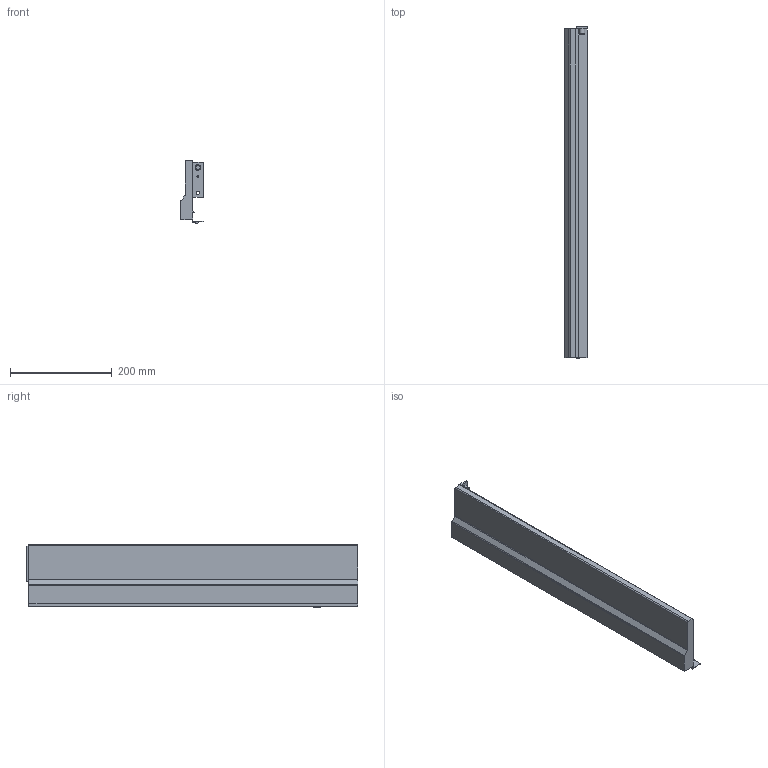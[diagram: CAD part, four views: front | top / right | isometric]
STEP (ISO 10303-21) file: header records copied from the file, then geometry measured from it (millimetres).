
FILE_DESCRIPTION (( 'STEP AP214' ), '1' );
FILE_NAME ('_IMOS_NOVA-Pro_Dekor-H122_CL_NL650_LI.step', '2010-07-06T09:36:27', ( 'grass' ), ( '' ), 'SwSTEP 2.0', 'SolidWorks 2009', '' );
FILE_SCHEMA (( 'AUTOMOTIVE_DESIGN' ));
Length unit declared in the file: millimetre
Products named in the file (1): _IMOS_NOVA-Pro_Dekor-H122_CL_NL650_LI
Bounding box: 44.3 x 652.7 x 122.49 mm (x, y, z)
Volume: 881776.7 mm3; surface area: 266256.4 mm2
Topology: 1 solids, 1 shells, 73 faces, 194 edges, 128 vertices
Faces by surface type: plane 42, cylinder 26, cone 4, bspline 1
Entity records: 2325 total; most frequent: CARTESIAN_POINT 417, DIRECTION 394, ORIENTED_EDGE 388, EDGE_CURVE 194, VECTOR 136, LINE 136, AXIS2_PLACEMENT_3D 129, VERTEX_POINT 128
